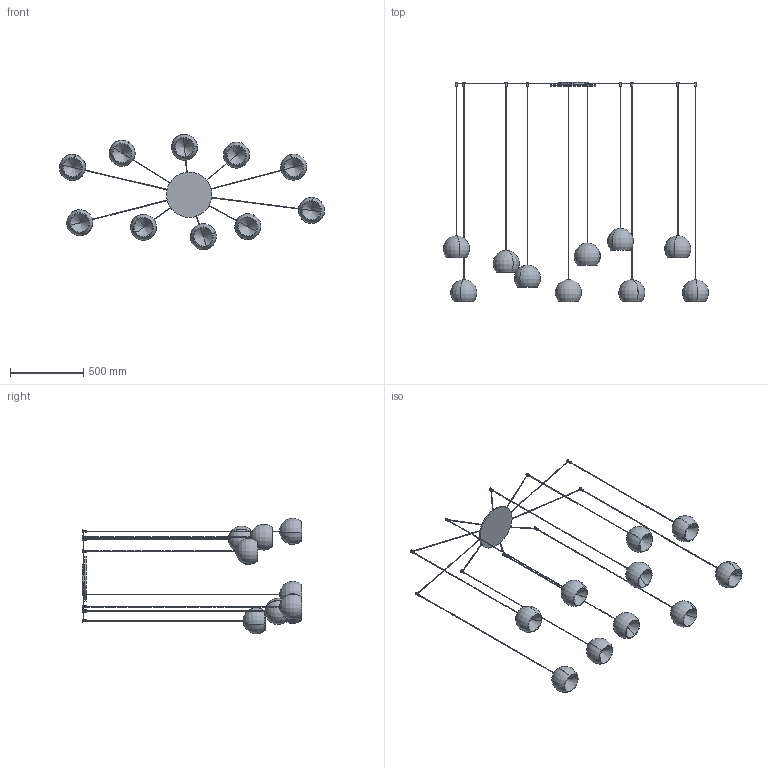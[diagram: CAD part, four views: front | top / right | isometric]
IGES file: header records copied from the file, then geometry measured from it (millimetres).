
Start section: SolidWorks IGES file using analytic representation for surfaces
Global section: file name: Y:\eforma\TECNICO\SOLIDWORKS\E-FORMA\09-LAMPADE\CHERRY\02 parts\CHRA7-00-CHERRY_10 sospensione.IGS; native system: SolidWorks 2022; preprocessor: SolidWorks 2022; author: eforma.tech; date: 250520.153843; units: millimetre
Bounding box: 1814.2 x 1500 x 790.17 mm (x, y, z)
Volume: 3313167.8 mm3; surface area: 2492800.3 mm2
Topology: 51 solids, 51 shells, 375 faces, 792 edges, 500 vertices
Faces by surface type: revolution 252, plane 123
